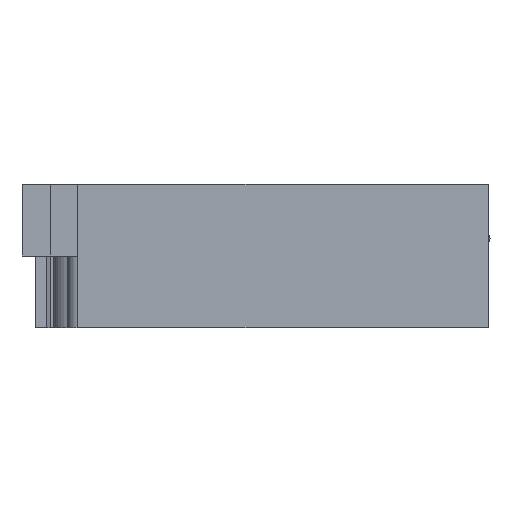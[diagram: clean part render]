
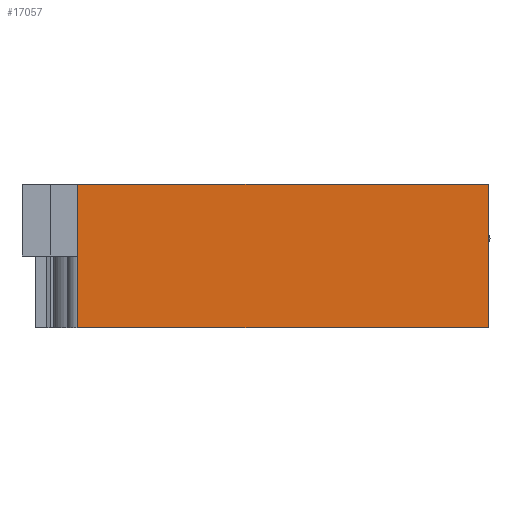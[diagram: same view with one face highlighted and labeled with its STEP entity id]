
A CAD part, front view. The second image highlights one B-rep face of the part: STEP entity #17057.
In plain terms, the highlighted planar face has unit normal (0, -1, 0).
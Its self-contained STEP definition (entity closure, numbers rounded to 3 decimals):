
#2805 = CARTESIAN_POINT ( 'NONE',  ( -118.612, -42.857, 4.15 ) ) ;
#2812 = PLANE ( 'NONE',  #61600 ) ;
#2814 = DIRECTION ( 'NONE',  ( 0., 1., 0. ) ) ;
#2815 = DIRECTION ( 'NONE',  ( -1., 0., 0. ) ) ;
#3597 = FACE_OUTER_BOUND ( 'NONE', #56900, .T. ) ;
#13563 = EDGE_CURVE ( 'NONE', #60676, #60665, #78463, .T. ) ;
#13634 = EDGE_CURVE ( 'NONE', #60570, #60592, #78591, .T. ) ;
#17057 = ADVANCED_FACE ( 'NONE', ( #3597 ), #2812, .F. ) ;
#42231 = LINE ( 'NONE', #45294, #42237 ) ;
#42237 = VECTOR ( 'NONE', #45297, 1000. ) ;
#42501 = LINE ( 'NONE', #45604, #42522 ) ;
#42522 = VECTOR ( 'NONE', #45637, 1000. ) ;
#45294 = CARTESIAN_POINT ( 'NONE',  ( -24.852, -42.857, 4.15 ) ) ;
#45297 = DIRECTION ( 'NONE',  ( 0., 0., -1. ) ) ;
#45599 = EDGE_CURVE ( 'NONE', #60570, #60676, #42231, .T. ) ;
#45604 = CARTESIAN_POINT ( 'NONE',  ( 48.046, -42.857, 4.15 ) ) ;
#45637 = DIRECTION ( 'NONE',  ( 0., 0., -1. ) ) ;
#45746 = EDGE_CURVE ( 'NONE', #60592, #60665, #42501, .T. ) ;
#56900 = EDGE_LOOP ( 'NONE', ( #69599, #69600, #69601, #69602 ) ) ;
#60570 = VERTEX_POINT ( 'NONE', #63851 ) ;
#60592 = VERTEX_POINT ( 'NONE', #63890 ) ;
#60665 = VERTEX_POINT ( 'NONE', #64026 ) ;
#60676 = VERTEX_POINT ( 'NONE', #64049 ) ;
#61600 = AXIS2_PLACEMENT_3D ( 'NONE', #2805, #2814, #2815 ) ;
#63851 = CARTESIAN_POINT ( 'NONE',  ( -24.852, -42.857, 4.15 ) ) ;
#63890 = CARTESIAN_POINT ( 'NONE',  ( 48.046, -42.857, 4.15 ) ) ;
#64026 = CARTESIAN_POINT ( 'NONE',  ( 48.046, -42.857, -21.25 ) ) ;
#64049 = CARTESIAN_POINT ( 'NONE',  ( -24.852, -42.857, -21.25 ) ) ;
#69599 = ORIENTED_EDGE ( 'NONE', *, *, #13563, .T. ) ;
#69600 = ORIENTED_EDGE ( 'NONE', *, *, #45746, .F. ) ;
#69601 = ORIENTED_EDGE ( 'NONE', *, *, #13634, .F. ) ;
#69602 = ORIENTED_EDGE ( 'NONE', *, *, #45599, .T. ) ;
#78463 = LINE ( 'NONE', #82822, #78471 ) ;
#78471 = VECTOR ( 'NONE', #82816, 1000. ) ;
#78591 = LINE ( 'NONE', #80550, #78598 ) ;
#78598 = VECTOR ( 'NONE', #80551, 1000. ) ;
#80550 = CARTESIAN_POINT ( 'NONE',  ( -118.612, -42.857, 4.15 ) ) ;
#80551 = DIRECTION ( 'NONE',  ( 1., 0., 0. ) ) ;
#82816 = DIRECTION ( 'NONE',  ( 1., 0., 0. ) ) ;
#82822 = CARTESIAN_POINT ( 'NONE',  ( -118.612, -42.857, -21.25 ) ) ;
